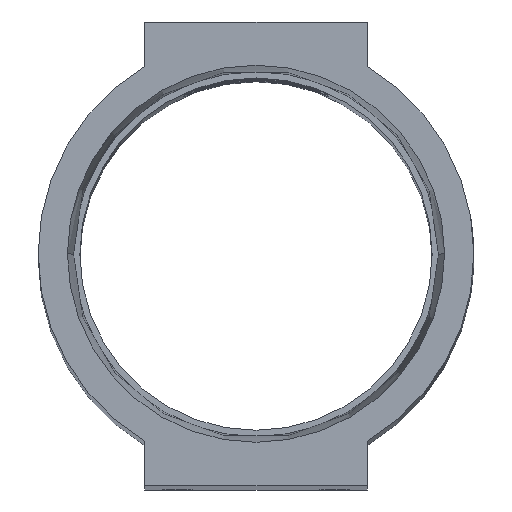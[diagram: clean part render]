
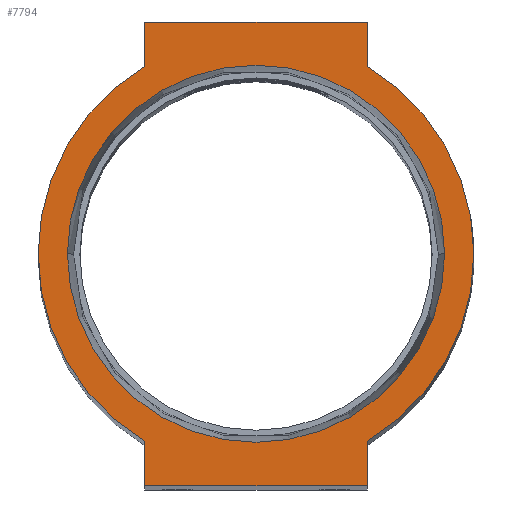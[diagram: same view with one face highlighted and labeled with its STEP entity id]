
A CAD part, top view. The second image highlights one B-rep face of the part: STEP entity #7794.
In plain terms, the highlighted planar face has unit normal (0, 0, 1).
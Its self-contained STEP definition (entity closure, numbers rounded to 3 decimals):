
#41 = ORIENTED_EDGE ( 'NONE', *, *, #11578, .T. ) ;
#853 = DIRECTION ( 'NONE',  ( 0., 0., 1. ) ) ;
#878 = LINE ( 'NONE', #3737, #9365 ) ;
#899 = ORIENTED_EDGE ( 'NONE', *, *, #8118, .T. ) ;
#1061 = DIRECTION ( 'NONE',  ( 0., -1., 0. ) ) ;
#1124 = LINE ( 'NONE', #10044, #2026 ) ;
#1154 = FACE_OUTER_BOUND ( 'NONE', #3293, .T. ) ;
#1250 = EDGE_CURVE ( 'NONE', #6655, #10123, #1973, .T. ) ;
#1300 = EDGE_CURVE ( 'NONE', #6803, #11158, #6305, .T. ) ;
#1359 = CIRCLE ( 'NONE', #12336, 23.5 ) ;
#1423 = CARTESIAN_POINT ( 'NONE',  ( 0., 0., 0. ) ) ;
#1604 = DIRECTION ( 'NONE',  ( -1., 0., 0. ) ) ;
#1841 = ORIENTED_EDGE ( 'NONE', *, *, #13057, .F. ) ;
#1873 = CARTESIAN_POINT ( 'NONE',  ( -12., -20.205, 0. ) ) ;
#1890 = DIRECTION ( 'NONE',  ( 1., 0., 0. ) ) ;
#1973 = CIRCLE ( 'NONE', #8501, 20.34 ) ;
#2026 = VECTOR ( 'NONE', #1061, 1000. ) ;
#2035 = ORIENTED_EDGE ( 'NONE', *, *, #9407, .T. ) ;
#2143 = AXIS2_PLACEMENT_3D ( 'NONE', #3913, #2937, #6961 ) ;
#2181 = LINE ( 'NONE', #4126, #3853 ) ;
#2592 = EDGE_LOOP ( 'NONE', ( #1841, #5836 ) ) ;
#2639 = DIRECTION ( 'NONE',  ( 0., -1., 0. ) ) ;
#2740 = VERTEX_POINT ( 'NONE', #6055 ) ;
#2933 = DIRECTION ( 'NONE',  ( 1., 0., 0. ) ) ;
#2937 = DIRECTION ( 'NONE',  ( 0., 0., 1. ) ) ;
#3002 = VECTOR ( 'NONE', #9138, 1000. ) ;
#3289 = ORIENTED_EDGE ( 'NONE', *, *, #12260, .T. ) ;
#3293 = EDGE_LOOP ( 'NONE', ( #10559, #12960, #5036, #2035, #899, #10804, #3289, #41, #4006 ) ) ;
#3608 = EDGE_CURVE ( 'NONE', #8113, #2740, #2181, .T. ) ;
#3737 = CARTESIAN_POINT ( 'NONE',  ( -12., 25., 0. ) ) ;
#3853 = VECTOR ( 'NONE', #10304, 1000. ) ;
#3913 = CARTESIAN_POINT ( 'NONE',  ( 0., 0., 0. ) ) ;
#3949 = CARTESIAN_POINT ( 'NONE',  ( 12., -25., 0. ) ) ;
#4006 = ORIENTED_EDGE ( 'NONE', *, *, #12893, .T. ) ;
#4126 = CARTESIAN_POINT ( 'NONE',  ( 12., 25., 0. ) ) ;
#4169 = AXIS2_PLACEMENT_3D ( 'NONE', #10909, #5866, #8918 ) ;
#4531 = CARTESIAN_POINT ( 'NONE',  ( -20.34, 0., 0. ) ) ;
#4591 = AXIS2_PLACEMENT_3D ( 'NONE', #1423, #9345, #5164 ) ;
#5036 = ORIENTED_EDGE ( 'NONE', *, *, #5908, .T. ) ;
#5164 = DIRECTION ( 'NONE',  ( 1., 0., 0. ) ) ;
#5185 = CARTESIAN_POINT ( 'NONE',  ( 12., -25., 0. ) ) ;
#5303 = CARTESIAN_POINT ( 'NONE',  ( -12., -25., 0. ) ) ;
#5372 = DIRECTION ( 'NONE',  ( 1., 0., 0. ) ) ;
#5836 = ORIENTED_EDGE ( 'NONE', *, *, #1250, .F. ) ;
#5866 = DIRECTION ( 'NONE',  ( 0., 0., 1. ) ) ;
#5908 = EDGE_CURVE ( 'NONE', #8534, #8429, #1124, .T. ) ;
#6055 = CARTESIAN_POINT ( 'NONE',  ( 12., 25., 0. ) ) ;
#6162 = FACE_BOUND ( 'NONE', #2592, .T. ) ;
#6193 = CIRCLE ( 'NONE', #10845, 23.5 ) ;
#6305 = LINE ( 'NONE', #5303, #6358 ) ;
#6358 = VECTOR ( 'NONE', #5372, 1000. ) ;
#6655 = VERTEX_POINT ( 'NONE', #4531 ) ;
#6803 = VERTEX_POINT ( 'NONE', #10728 ) ;
#6961 = DIRECTION ( 'NONE',  ( 1., 0., 0. ) ) ;
#7039 = CARTESIAN_POINT ( 'NONE',  ( -12., 20.205, 0. ) ) ;
#7167 = CARTESIAN_POINT ( 'NONE',  ( 0., 0., 0. ) ) ;
#7242 = VERTEX_POINT ( 'NONE', #10698 ) ;
#7354 = VERTEX_POINT ( 'NONE', #11408 ) ;
#7362 = VECTOR ( 'NONE', #2639, 1000. ) ;
#7614 = CARTESIAN_POINT ( 'NONE',  ( -12., 25., 0. ) ) ;
#7794 = ADVANCED_FACE ( 'NONE', ( #6162, #1154 ), #12194, .T. ) ;
#8113 = VERTEX_POINT ( 'NONE', #8585 ) ;
#8118 = EDGE_CURVE ( 'NONE', #12118, #6803, #8437, .T. ) ;
#8124 = LINE ( 'NONE', #3949, #3002 ) ;
#8239 = CIRCLE ( 'NONE', #2143, 23.5 ) ;
#8429 = VERTEX_POINT ( 'NONE', #7039 ) ;
#8437 = LINE ( 'NONE', #8718, #7362 ) ;
#8501 = AXIS2_PLACEMENT_3D ( 'NONE', #13032, #853, #2933 ) ;
#8534 = VERTEX_POINT ( 'NONE', #7614 ) ;
#8585 = CARTESIAN_POINT ( 'NONE',  ( 12., 20.205, 0. ) ) ;
#8718 = CARTESIAN_POINT ( 'NONE',  ( -12., -25., 0. ) ) ;
#8918 = DIRECTION ( 'NONE',  ( 1., 0., 0. ) ) ;
#9138 = DIRECTION ( 'NONE',  ( 0., 1., 0. ) ) ;
#9345 = DIRECTION ( 'NONE',  ( 0., 0., 1. ) ) ;
#9365 = VECTOR ( 'NONE', #1604, 1000. ) ;
#9407 = EDGE_CURVE ( 'NONE', #8429, #12118, #8239, .T. ) ;
#10044 = CARTESIAN_POINT ( 'NONE',  ( -12., 25., 0. ) ) ;
#10123 = VERTEX_POINT ( 'NONE', #11426 ) ;
#10304 = DIRECTION ( 'NONE',  ( 0., 1., 0. ) ) ;
#10336 = CIRCLE ( 'NONE', #4169, 20.34 ) ;
#10559 = ORIENTED_EDGE ( 'NONE', *, *, #3608, .T. ) ;
#10566 = DIRECTION ( 'NONE',  ( 1., 0., 0. ) ) ;
#10698 = CARTESIAN_POINT ( 'NONE',  ( 23.5, 0., 0. ) ) ;
#10728 = CARTESIAN_POINT ( 'NONE',  ( -12., -25., 0. ) ) ;
#10804 = ORIENTED_EDGE ( 'NONE', *, *, #1300, .T. ) ;
#10845 = AXIS2_PLACEMENT_3D ( 'NONE', #11319, #10877, #1890 ) ;
#10877 = DIRECTION ( 'NONE',  ( 0., 0., 1. ) ) ;
#10909 = CARTESIAN_POINT ( 'NONE',  ( 0., 0., 0. ) ) ;
#11158 = VERTEX_POINT ( 'NONE', #5185 ) ;
#11231 = DIRECTION ( 'NONE',  ( 0., 0., 1. ) ) ;
#11319 = CARTESIAN_POINT ( 'NONE',  ( 0., 0., 0. ) ) ;
#11408 = CARTESIAN_POINT ( 'NONE',  ( 12., -20.205, 0. ) ) ;
#11426 = CARTESIAN_POINT ( 'NONE',  ( 20.34, 0., 0. ) ) ;
#11578 = EDGE_CURVE ( 'NONE', #7354, #7242, #1359, .T. ) ;
#12118 = VERTEX_POINT ( 'NONE', #1873 ) ;
#12194 = PLANE ( 'NONE',  #4591 ) ;
#12260 = EDGE_CURVE ( 'NONE', #11158, #7354, #8124, .T. ) ;
#12336 = AXIS2_PLACEMENT_3D ( 'NONE', #7167, #11231, #10566 ) ;
#12393 = EDGE_CURVE ( 'NONE', #2740, #8534, #878, .T. ) ;
#12893 = EDGE_CURVE ( 'NONE', #7242, #8113, #6193, .T. ) ;
#12960 = ORIENTED_EDGE ( 'NONE', *, *, #12393, .T. ) ;
#13032 = CARTESIAN_POINT ( 'NONE',  ( 0., 0., 0. ) ) ;
#13057 = EDGE_CURVE ( 'NONE', #10123, #6655, #10336, .T. ) ;
